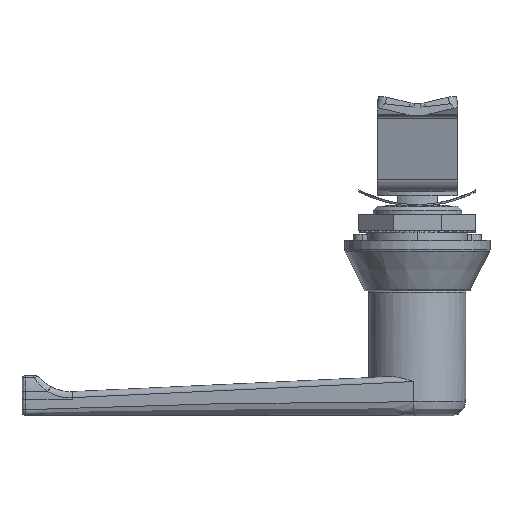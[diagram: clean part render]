
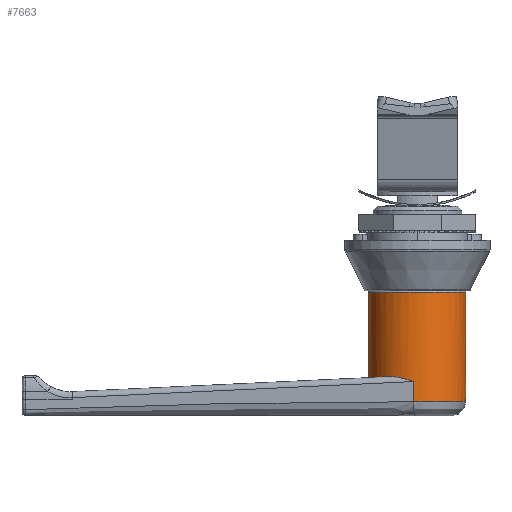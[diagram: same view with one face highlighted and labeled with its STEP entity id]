
A CAD part, front view. The second image highlights one B-rep face of the part: STEP entity #7663.
In plain terms, the highlighted cylindrical face has radius 12 mm (diameter 24 mm), a partial arc.
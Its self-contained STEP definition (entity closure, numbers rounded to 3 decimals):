
#2697=CARTESIAN_POINT('',(0.,0.,-30.7));
#2698=DIRECTION('',(0.,0.,-1.));
#2699=DIRECTION('',(0.,-1.,0.));
#2700=AXIS2_PLACEMENT_3D('',#2697,#2698,#2699);
#2702=CARTESIAN_POINT('',(0.,0.,-10.));
#2703=DIRECTION('',(0.,0.,-1.));
#2704=DIRECTION('',(0.,1.,0.));
#2705=AXIS2_PLACEMENT_3D('',#2702,#2703,#2704);
#2707=DIRECTION('',(0.,0.,-1.));
#2708=VECTOR('',#2707,5.004);
#2709=CARTESIAN_POINT('',(11.965,-0.92,-3.5));
#2710=LINE('',#2709,#2708);
#2711=CARTESIAN_POINT('',(0.,0.,-3.5));
#2712=DIRECTION('',(0.,0.,1.));
#2713=DIRECTION('',(0.997,-0.077,0.));
#2714=AXIS2_PLACEMENT_3D('',#2711,#2712,#2713);
#2732=DIRECTION('',(0.,0.,-1.));
#2733=VECTOR('',#2732,5.004);
#2734=CARTESIAN_POINT('',(-11.965,-0.92,-3.5));
#2735=LINE('',#2734,#2733);
#2918=CARTESIAN_POINT('',(-2.982,-11.623,
-9.495));
#2929=CARTESIAN_POINT('',(-2.982,-11.623,
-9.495));
#2930=CARTESIAN_POINT('',(-3.558,-11.476,
-9.502));
#2931=CARTESIAN_POINT('',(-4.675,-11.099,
-9.52));
#2932=CARTESIAN_POINT('',(-6.259,-10.289,
-9.558));
#2933=CARTESIAN_POINT('',(-7.705,-9.257,
-9.607));
#2934=CARTESIAN_POINT('',(-8.985,-8.02,
-9.665));
#2935=CARTESIAN_POINT('',(-9.703,-7.086,
-9.709));
#2936=CARTESIAN_POINT('',(-10.03,-6.588,
-9.733));
#2943=CARTESIAN_POINT('',(-10.03,-6.588,
-9.733));
#2944=CARTESIAN_POINT('',(-10.171,-6.373,
-9.743));
#2945=CARTESIAN_POINT('',(-10.439,-5.935,
-9.733));
#2946=CARTESIAN_POINT('',(-10.798,-5.253,
-9.653));
#2947=CARTESIAN_POINT('',(-11.109,-4.559,
-9.524));
#2948=CARTESIAN_POINT('',(-11.372,-3.856,
-9.36));
#2949=CARTESIAN_POINT('',(-11.588,-3.148,
-9.172));
#2950=CARTESIAN_POINT('',(-11.76,-2.426,
-8.964));
#2951=CARTESIAN_POINT('',(-11.889,-1.688,
-8.741));
#2952=CARTESIAN_POINT('',(-11.945,-1.178,
-8.583));
#2953=CARTESIAN_POINT('',(-11.965,-0.92,
-8.504));
#2965=CARTESIAN_POINT('',(11.965,-0.92,
-8.504));
#2966=CARTESIAN_POINT('',(11.945,-1.175,
-8.582));
#2967=CARTESIAN_POINT('',(11.89,-1.682,
-8.739));
#2968=CARTESIAN_POINT('',(11.76,-2.426,
-8.964));
#2969=CARTESIAN_POINT('',(11.586,-3.156,
-9.174));
#2970=CARTESIAN_POINT('',(11.366,-3.872,
-9.364));
#2971=CARTESIAN_POINT('',(11.102,-4.575,
-9.527));
#2972=CARTESIAN_POINT('',(10.793,-5.264,
-9.654));
#2973=CARTESIAN_POINT('',(10.438,-5.937,
-9.733));
#2974=CARTESIAN_POINT('',(10.17,-6.374,
-9.743));
#2975=CARTESIAN_POINT('',(10.03,-6.588,
-9.733));
#3036=CARTESIAN_POINT('',(11.965,-0.92,-10.));
#3037=CARTESIAN_POINT('',(11.926,-1.423,
-9.976));
#3038=CARTESIAN_POINT('',(11.785,-2.425,
-9.929));
#3039=CARTESIAN_POINT('',(11.387,-3.887,
-9.86));
#3040=CARTESIAN_POINT('',(10.807,-5.288,
-9.794));
#3041=CARTESIAN_POINT('',(10.307,-6.166,
-9.753));
#3042=CARTESIAN_POINT('',(10.03,-6.588,
-9.733));
#3044=DIRECTION('',(0.,0.,-1.));
#3045=VECTOR('',#3044,20.7);
#3046=CARTESIAN_POINT('',(0.,12.,-10.));
#3047=LINE('',#3046,#3045);
#3053=DIRECTION('',(0.,0.,1.));
#3054=VECTOR('',#3053,22.176);
#3055=CARTESIAN_POINT('',(0.,-12.,-30.7));
#3056=LINE('',#3055,#3054);
#3491=CARTESIAN_POINT('',(0.,-12.,
-8.524));
#4040=CARTESIAN_POINT('',(-2.982,-11.623,
-9.495));
#4041=CARTESIAN_POINT('',(-2.851,-11.657,
-9.494));
#4042=CARTESIAN_POINT('',(-2.59,-11.719,
-9.472));
#4043=CARTESIAN_POINT('',(-2.202,-11.798,
-9.397));
#4044=CARTESIAN_POINT('',(-1.821,-11.863,
-9.291));
#4045=CARTESIAN_POINT('',(-1.447,-11.914,
-9.162));
#4046=CARTESIAN_POINT('',(-1.081,-11.953,
-9.017));
#4047=CARTESIAN_POINT('',(-0.72,-11.98,
-8.86));
#4048=CARTESIAN_POINT('',(-0.361,-11.996,
-8.695));
#4049=CARTESIAN_POINT('',(-0.12,-12.,
-8.581));
#4050=CARTESIAN_POINT('',(0.,-12.,
-8.524));
#4348=CARTESIAN_POINT('',(0.,-12.,-30.7));
#4349=CARTESIAN_POINT('',(0.,12.,-30.7));
#4350=VERTEX_POINT('',#4348);
#4351=VERTEX_POINT('',#4349);
#4352=CARTESIAN_POINT('',(0.,12.,-10.));
#4353=VERTEX_POINT('',#4352);
#4355=VERTEX_POINT('',#3491);
#4368=VERTEX_POINT('',#2918);
#4399=CARTESIAN_POINT('',(11.965,-0.92,
-3.5));
#4400=CARTESIAN_POINT('',(-11.965,-0.92,
-3.5));
#4401=VERTEX_POINT('',#4399);
#4402=VERTEX_POINT('',#4400);
#4420=CARTESIAN_POINT('',(-11.965,-0.92,
-8.504));
#4422=VERTEX_POINT('',#4420);
#4424=CARTESIAN_POINT('',(-10.03,-6.588,
-9.733));
#4426=VERTEX_POINT('',#4424);
#4441=CARTESIAN_POINT('',(10.03,-6.588,
-9.733));
#4443=VERTEX_POINT('',#4441);
#4445=CARTESIAN_POINT('',(11.965,-0.92,
-8.504));
#4447=VERTEX_POINT('',#4445);
#4455=VERTEX_POINT('',#3036);
#7634=CARTESIAN_POINT('',(0.,0.,0.));
#7635=DIRECTION('',(0.,0.,1.));
#7636=DIRECTION('',(1.,0.,0.));
#7637=AXIS2_PLACEMENT_3D('',#7634,#7635,#7636);
#7638=CYLINDRICAL_SURFACE('',#7637,12.);
#7640=ORIENTED_EDGE('',*,*,#7639,.T.);
#7642=ORIENTED_EDGE('',*,*,#7641,.F.);
#7644=ORIENTED_EDGE('',*,*,#7643,.F.);
#7646=ORIENTED_EDGE('',*,*,#7645,.T.);
#7648=ORIENTED_EDGE('',*,*,#7647,.F.);
#7650=ORIENTED_EDGE('',*,*,#7649,.T.);
#7652=ORIENTED_EDGE('',*,*,#7651,.F.);
#7654=ORIENTED_EDGE('',*,*,#7653,.T.);
#7656=ORIENTED_EDGE('',*,*,#7655,.T.);
#7658=ORIENTED_EDGE('',*,*,#7657,.F.);
#7659=ORIENTED_EDGE('',*,*,#7625,.F.);
#7660=ORIENTED_EDGE('',*,*,#7143,.T.);
#7661=EDGE_LOOP('',(#7640,#7642,#7644,#7646,#7648,#7650,#7652,#7654,#7656,#7658,
#7659,#7660));
#7662=FACE_OUTER_BOUND('',#7661,.F.);
#7663=ADVANCED_FACE('',(#7662),#7638,.T.);
#2701=CIRCLE('',#2700,12.);
#2706=CIRCLE('',#2705,12.);
#2715=CIRCLE('',#2714,12.);
#2937=B_SPLINE_CURVE_WITH_KNOTS('',3,(#2929,#2930,#2931,#2932,#2933,#2934,#2935,
#2936),.UNSPECIFIED.,.F.,.F.,(4,1,1,1,1,4),(0.,0.2,0.4,0.6,0.8,1.),
.UNSPECIFIED.);
#2954=B_SPLINE_CURVE_WITH_KNOTS('',3,(#2943,#2944,#2945,#2946,#2947,#2948,#2949,
#2950,#2951,#2952,#2953),.UNSPECIFIED.,.F.,.F.,(4,1,1,1,1,1,1,1,4),(0.,
0.125,0.25,0.375,0.5,0.625,0.75,0.875,1.),.UNSPECIFIED.);
#2976=B_SPLINE_CURVE_WITH_KNOTS('',3,(#2965,#2966,#2967,#2968,#2969,#2970,#2971,
#2972,#2973,#2974,#2975),.UNSPECIFIED.,.F.,.F.,(4,1,1,1,1,1,1,1,4),(0.,
0.125,0.25,0.375,0.5,0.625,0.75,0.875,1.),.UNSPECIFIED.);
#3043=B_SPLINE_CURVE_WITH_KNOTS('',3,(#3036,#3037,#3038,#3039,#3040,#3041,
#3042),.UNSPECIFIED.,.F.,.F.,(4,1,1,1,4),(0.,0.25,0.5,0.75,1.),
.UNSPECIFIED.);
#4051=B_SPLINE_CURVE_WITH_KNOTS('',3,(#4040,#4041,#4042,#4043,#4044,#4045,#4046,
#4047,#4048,#4049,#4050),.UNSPECIFIED.,.F.,.F.,(4,1,1,1,1,1,1,1,4),(0.,
0.125,0.25,0.375,0.5,0.625,0.75,0.875,1.),.UNSPECIFIED.);
#7143=EDGE_CURVE('',#4401,#4402,#2715,.T.);
#7625=EDGE_CURVE('',#4401,#4447,#2710,.T.);
#7639=EDGE_CURVE('',#4402,#4422,#2735,.T.);
#7641=EDGE_CURVE('',#4426,#4422,#2954,.T.);
#7643=EDGE_CURVE('',#4368,#4426,#2937,.T.);
#7645=EDGE_CURVE('',#4368,#4355,#4051,.T.);
#7647=EDGE_CURVE('',#4350,#4355,#3056,.T.);
#7649=EDGE_CURVE('',#4350,#4351,#2701,.T.);
#7651=EDGE_CURVE('',#4353,#4351,#3047,.T.);
#7653=EDGE_CURVE('',#4353,#4455,#2706,.T.);
#7655=EDGE_CURVE('',#4455,#4443,#3043,.T.);
#7657=EDGE_CURVE('',#4447,#4443,#2976,.T.);
